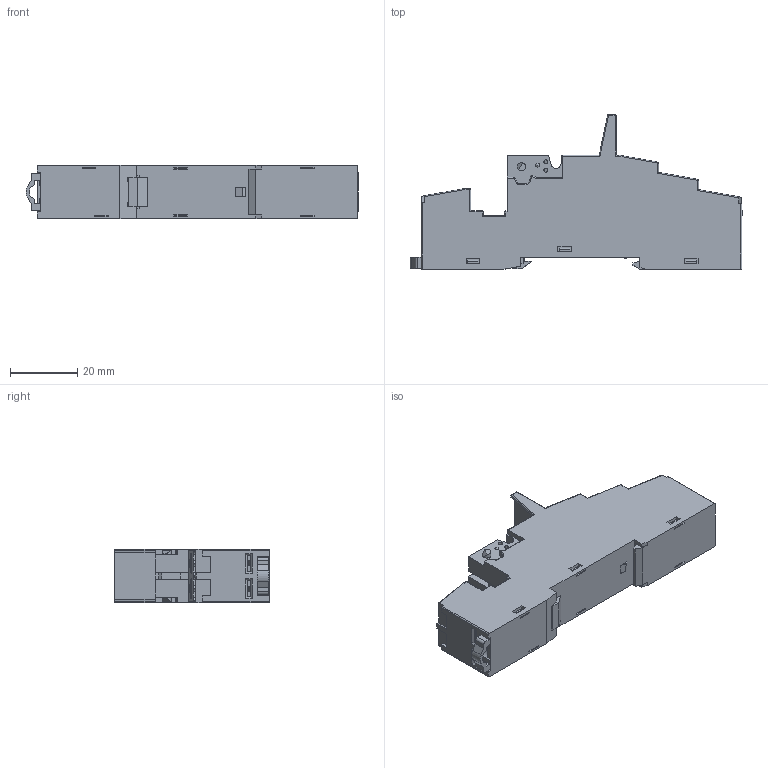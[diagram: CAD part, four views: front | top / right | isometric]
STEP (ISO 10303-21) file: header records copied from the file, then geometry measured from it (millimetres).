
FILE_DESCRIPTION(/* description */ (''),/* implementation_level */ '2;1');
FILE_NAME(/* name */ 'C:\Desktop\FIERA\95.P5\95.P5.stp',/* time_stamp */ '2015-03-06T11:03:45+01:00',/* author */ ('marco'),/* organization */ (''),/* preprocessor_version */ 'ST-DEVELOPER v15.6',/* originating_system */ 'Autodesk Inventor 2015',/* authorisation */ '');
FILE_SCHEMA (('AUTOMOTIVE_DESIGN { 1 0 10303 214 3 1 1 }'));
Products named in the file (1): Assieme 95.x5
Bounding box: 98.9 x 46 x 15.8 mm (x, y, z)
Volume: 35248.7 mm3; surface area: 19746.4 mm2
Topology: 1 solids, 1 shells, 2681 faces, 7421 edges, 4731 vertices
Faces by surface type: plane 1989, cylinder 516, torus 73, cone 69, bspline 18, sphere 16
Full cylindrical faces by diameter (mm): 1.2 x4, 2.2 x8, 2.5 x2
Entity records: 87629 total; most frequent: CARTESIAN_POINT 15814, ORIENTED_EDGE 14784, DIRECTION 13796, EDGE_CURVE 7391, LINE 6086, VECTOR 6086, VERTEX_POINT 4723, AXIS2_PLACEMENT_3D 3855
